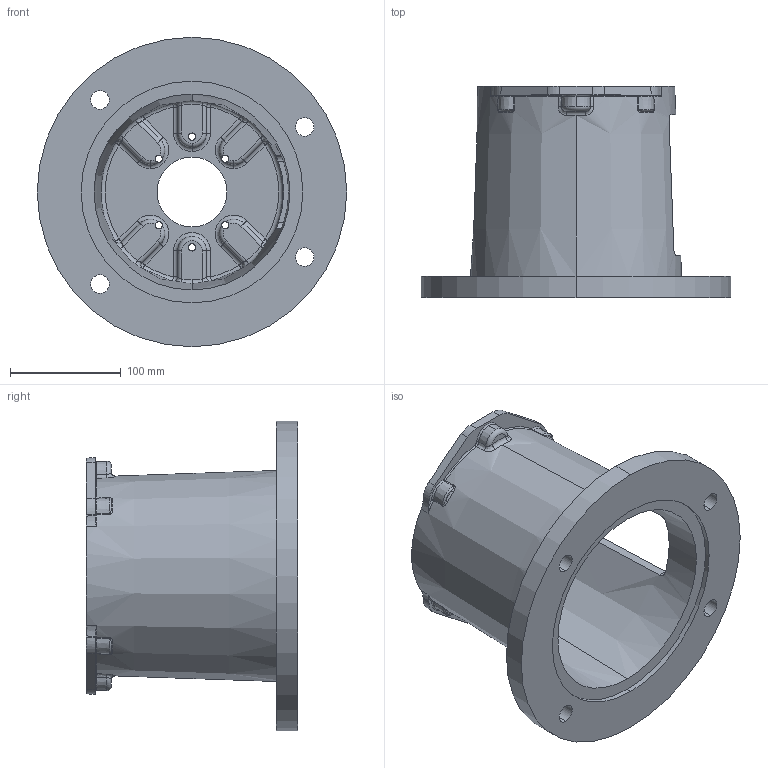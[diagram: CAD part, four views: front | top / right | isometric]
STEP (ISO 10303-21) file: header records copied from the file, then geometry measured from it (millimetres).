
FILE_DESCRIPTION (( 'STEP AP203' ), '1' );
FILE_NAME ('E7877563M.STEP', '2014-11-04T15:43:21', ( '' ), ( '' ), 'SwSTEP 2.0', 'SolidWorks 2014', '' );
FILE_SCHEMA (( 'CONFIG_CONTROL_DESIGN' ));
Length unit declared in the file: inch
Products named in the file (1): E7877563M
Bounding box: 279.4 x 190.5 x 279.4 mm (x, y, z)
Volume: 1566151.2 mm3; surface area: 327452.7 mm2
Topology: 1 solids, 1 shells, 346 faces, 884 edges, 527 vertices
Faces by surface type: torus 105, cylinder 86, bspline 64, plane 45, sphere 24, cone 22
Entity records: 14041 total; most frequent: CARTESIAN_POINT 5942, ORIENTED_EDGE 1744, DIRECTION 1714, EDGE_CURVE 872, AXIS2_PLACEMENT_3D 777, VERTEX_POINT 527, CIRCLE 494, EDGE_LOOP 369
